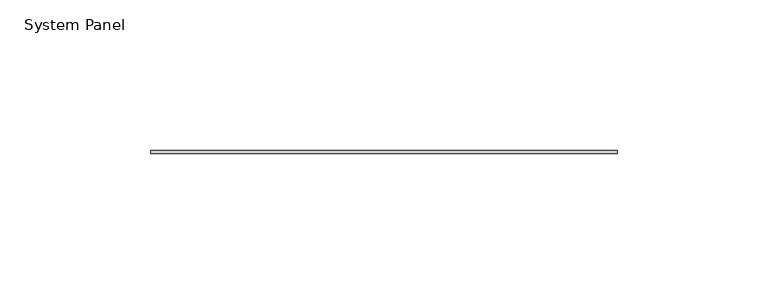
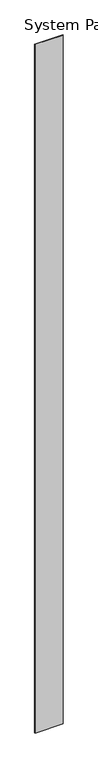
"""IFC4 building model written with IfcOpenShell, lengths in millimetres: plate geometry, System Panel : Stratco_Hiland_Tray."""

import ifcopenshell
import ifcopenshell.guid

model = None  # the IFC model being written
_history = None  # IfcOwnerHistory: only IFC2X3 demands one
_inside = {}  # id of a spatial element -> (the spatial element, [elements in it])
_under = {}  # id of a project, library or spatial element -> (it, [spatial elements below it])
_declared = {}  # id of a project -> (the project, [libraries it declares])
_typed = {}  # id of a type object -> (the type object, [elements of that type])
_made_of = {}  # id of a material, layer set ... -> (it, [elements and type objects made of it])


def new_model(schema):
    """Start an empty IFC model of exactly this schema.

    Asked for "IFC4X3", IfcOpenShell would pick the latest addendum, in which some entities
    have other attributes; the version numbers below select the first issue.
    IFC2X3 requires an IfcOwnerHistory on every rooted entity: one is made here for all.
    """
    global model, _history
    if schema == "IFC4X3":
        model = ifcopenshell.file(schema_version=(4, 3, 0, 0))
    else:
        model = ifcopenshell.file(schema=schema)
    _inside.clear()
    _under.clear()
    _declared.clear()
    _typed.clear()
    _made_of.clear()
    _history = None
    if model.schema == "IFC2X3":
        org = make("IfcOrganization", Name="unknown")
        user = make(
            "IfcPersonAndOrganization",
            ThePerson=make("IfcPerson", FamilyName="unknown"),
            TheOrganization=org,
        )
        app = make(
            "IfcApplication",
            ApplicationDeveloper=org,
            Version="unknown",
            ApplicationFullName="unknown",
            ApplicationIdentifier="unknown",
        )
        _history = make(
            "IfcOwnerHistory",
            OwningUser=user,
            OwningApplication=app,
            ChangeAction="ADDED",
            CreationDate=0,
        )
    return model


def make(cls, **values):
    """One entity of the class cls with the attributes given. An attribute that is None is left unset."""
    return model.create_entity(
        cls, **{name: value for name, value in values.items() if value is not None}
    )


def rooted(cls, **values):
    """An entity with a GlobalId (a new one), such as an element, a storey or a relation."""
    return make(cls, GlobalId=ifcopenshell.guid.new(), OwnerHistory=_history, **values)


def si_unit(unit_type, name, prefix=None):
    """IfcSIUnit, for example si_unit("LENGTHUNIT", "METRE", prefix="MILLI")."""
    return make("IfcSIUnit", UnitType=unit_type, Prefix=prefix, Name=name)


def assignment(units):
    """IfcUnitAssignment: the units of a project."""
    return None if units is None else make("IfcUnitAssignment", Units=units)


def point(xyz):
    """IfcCartesianPoint."""
    return None if xyz is None else make("IfcCartesianPoint", Coordinates=xyz)


def direction(xyz):
    """IfcDirection."""
    return None if xyz is None else make("IfcDirection", DirectionRatios=xyz)


def frame(location, z_axis=None, x_axis=None):
    """IfcAxis2Placement3D, a coordinate frame: its origin and axes. An axis left out is left unset."""
    return make(
        "IfcAxis2Placement3D",
        Location=point(location),
        Axis=direction(z_axis),
        RefDirection=direction(x_axis),
    )


def origin():
    """The frame at (0, 0, 0) with its axes left unset."""
    return frame((0.0, 0.0, 0.0))


def origin_with_axes():
    """The frame at (0, 0, 0) with the z axis (0, 0, 1) and the x axis (1, 0, 0) written out."""
    return frame((0.0, 0.0, 0.0), z_axis=(0.0, 0.0, 1.0), x_axis=(1.0, 0.0, 0.0))


def place(relative_to, where):
    """IfcLocalPlacement: puts the frame where relative to a parent placement (None: the world)."""
    return make(
        "IfcLocalPlacement", PlacementRelTo=relative_to, RelativePlacement=where
    )


def context(
    kind, dimensions, precision=None, world=None, true_north=None, identifier=None
):
    """IfcGeometricRepresentationContext, for example the 3D "Model" context."""
    return make(
        "IfcGeometricRepresentationContext",
        ContextIdentifier=identifier,
        ContextType=kind,
        CoordinateSpaceDimension=dimensions,
        Precision=precision,
        WorldCoordinateSystem=world,
        TrueNorth=true_north,
    )


def project(units=None, contexts=None):
    """IfcProject with its units and contexts."""
    return rooted(
        "IfcProject",
        Name="project",
        RepresentationContexts=contexts,
        UnitsInContext=assignment(units),
    )


def spatial(cls, under=None, at=None, **own):
    """A site, building, storey or space (cls), placed at a placement, below another one or the project."""
    s = rooted(cls, ObjectPlacement=at, **own)
    if under is not None:
        _under.setdefault(under.id(), (under, []))[1].append(s)
    return s


def polyline(points):
    """IfcPolyline through the points."""
    return make("IfcPolyline", Points=[point(p) for p in points])


def outline(outer, holes=None, kind="AREA"):
    """IfcArbitraryClosedProfileDef: a profile drawn as a closed curve; with holes, ...WithVoids."""
    if holes is None:
        return make("IfcArbitraryClosedProfileDef", ProfileType=kind, OuterCurve=outer)
    return make(
        "IfcArbitraryProfileDefWithVoids",
        ProfileType=kind,
        OuterCurve=outer,
        InnerCurves=holes,
    )


def extrude(swept, where, along, depth):
    """IfcExtrudedAreaSolid: the profile swept, set in the frame where, extruded along a direction by depth."""
    return make(
        "IfcExtrudedAreaSolid",
        SweptArea=swept,
        Position=where,
        ExtrudedDirection=direction(along),
        Depth=depth,
    )


def shape(context_of_items, identifier, shape_type, items):
    """IfcShapeRepresentation: the items that make up one representation, for example the "Body"."""
    return make(
        "IfcShapeRepresentation",
        ContextOfItems=context_of_items,
        RepresentationIdentifier=identifier,
        RepresentationType=shape_type,
        Items=items,
    )


def source(mapping_origin, context_of_items, identifier, shape_type, items):
    """IfcRepresentationMap: a shape defined once, which mapped items show again and again."""
    return make(
        "IfcRepresentationMap",
        MappingOrigin=mapping_origin,
        MappedRepresentation=shape(context_of_items, identifier, shape_type, items),
    )


def transform(
    local_origin,
    x_axis=None,
    y_axis=None,
    z_axis=None,
    scale=None,
    scale2=None,
    scale3=None,
    uniform=True,
):
    """IfcCartesianTransformationOperator3D, or its non-uniform kind. x_axis, y_axis, z_axis: its Axis1, 2, 3."""
    if uniform:
        return make(
            "IfcCartesianTransformationOperator3D",
            Axis1=direction(x_axis),
            Axis2=direction(y_axis),
            LocalOrigin=point(local_origin),
            Scale=scale,
            Axis3=direction(z_axis),
        )
    return make(
        "IfcCartesianTransformationOperator3DnonUniform",
        Axis1=direction(x_axis),
        Axis2=direction(y_axis),
        LocalOrigin=point(local_origin),
        Scale=scale,
        Axis3=direction(z_axis),
        Scale2=scale2,
        Scale3=scale3,
    )


def mapped(mapping_source, mapping_target):
    """IfcMappedItem: shows the shape of a source again, moved by a transform."""
    return make(
        "IfcMappedItem", MappingSource=mapping_source, MappingTarget=mapping_target
    )


def made_of(thing, what):
    """Note that an element or type object is made of a material, layer set ...; save() writes the relation."""
    if what is not None:
        _made_of.setdefault(what.id(), (what, []))[1].append(thing)
    return thing


def element(
    cls,
    number,
    at=None,
    inside=None,
    cuts=None,
    type_object=None,
    material=None,
    context=None,
    identifier="Body",
    shape_type=None,
    held_by="IfcProductDefinitionShape",
    body=None,
    shapes=None,
    **own,
):
    """One element of the class cls, such as IfcWall. Its Tag is "e" and its number.

    at: its placement. inside: the storey or other place that contains it. cuts: it is an
    opening in that element (IfcRelVoidsElement). A single representation is given by context,
    identifier, shape_type and body (its items); several are given by shapes. held_by: the class
    of the entity that holds the representations. save() writes the other relations.
    """
    e = rooted(cls, Tag="e%d" % number, ObjectPlacement=at, **own)
    if body is not None:
        shapes = [shape(context, identifier, shape_type, body)]
    if shapes is not None:
        e.Representation = make(held_by, Representations=shapes)
    if inside is not None:
        _inside.setdefault(inside.id(), (inside, []))[1].append(e)
    if cuts is not None:
        rooted(
            "IfcRelVoidsElement", RelatingBuildingElement=cuts, RelatedOpeningElement=e
        )
    if type_object is not None:
        _typed.setdefault(type_object.id(), (type_object, []))[1].append(e)
    return made_of(e, material)


def aggregate(whole, parts):
    """IfcRelAggregates: a whole, such as a stair, and the parts it consists of."""
    return rooted("IfcRelAggregates", RelatingObject=whole, RelatedObjects=parts)


def save(model, path):
    """Write the relations noted so far, then the file.

    IfcRelAggregates (storeys below a building ...), IfcRelContainedInSpatialStructure (elements
    in a storey), IfcRelDefinesByType, IfcRelAssociatesMaterial and IfcRelDeclares: one each for
    every whole, place, type object, material and project.
    """
    for whole, parts in _under.values():
        aggregate(whole, parts)
    for where, things in _inside.values():
        rooted(
            "IfcRelContainedInSpatialStructure",
            RelatedElements=things,
            RelatingStructure=where,
        )
    for kind, things in _typed.values():
        rooted("IfcRelDefinesByType", RelatedObjects=things, RelatingType=kind)
    for what, things in _made_of.values():
        rooted("IfcRelAssociatesMaterial", RelatedObjects=things, RelatingMaterial=what)
    for by, libraries in _declared.values():
        rooted("IfcRelDeclares", RelatingContext=by, RelatedDefinitions=libraries)
    model.write(path)


def system_panel_f94834bd(model_context):
    return source(origin(), model_context, "Body", "SweptSolid", [
        extrude(outline(polyline([(77.5000002, 2.5), (-77.5000002, 2.5), (-77.5000002, 3.5), (77.5000002, 3.5), (77.5000002, 2.5)])), origin_with_axes(), (0.0, 0.0, 1.0), 4000.0),
    ])


if __name__ == "__main__":
    model = new_model("IFC4")
    model_context = context("Model", 3, world=origin())
    ifc_project = project(units=[si_unit("LENGTHUNIT", "METRE", prefix="MILLI")], contexts=[model_context])
    site = spatial("IfcSite", under=ifc_project)
    building = spatial("IfcBuilding", under=site)
    placement = place(None, origin())
    system_panel_shape = system_panel_f94834bd(model_context)
    element("IfcPlate", 1, ObjectType="System Panel : Stratco_Hiland_Tray", at=placement, inside=building, context=model_context, shape_type="MappedRepresentation", body=[
        mapped(system_panel_shape, transform((0.0, 0.0, 0.0), x_axis=(1.0, 0.0, 0.0), y_axis=(0.0, 1.0, 0.0), z_axis=(0.0, 0.0, 1.0))),
    ])
    save(model, "model.ifc")
